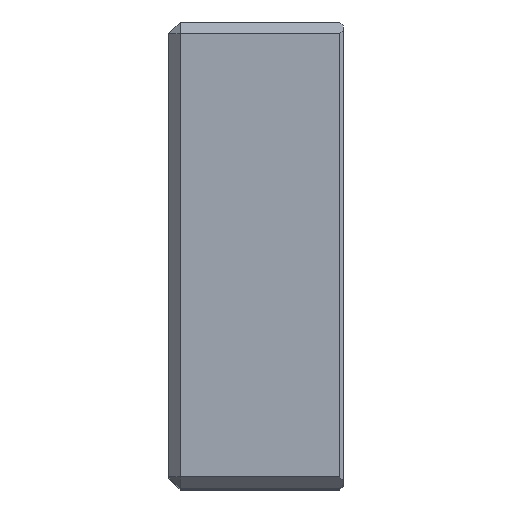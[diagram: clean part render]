
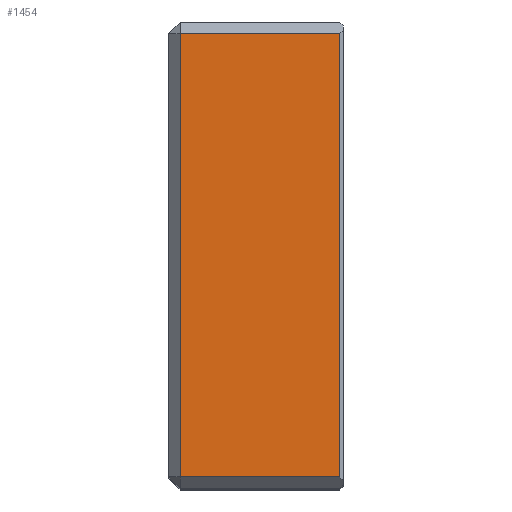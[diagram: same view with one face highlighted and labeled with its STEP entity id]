
A CAD part, top view. The second image highlights one B-rep face of the part: STEP entity #1454.
In plain terms, the highlighted planar face has unit normal (0, 0, 1).
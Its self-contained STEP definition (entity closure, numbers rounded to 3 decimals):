
#145=VERTEX_POINT(' ',#146);
#146=CARTESIAN_POINT('',(3.,57.,0.));
#149=VERTEX_POINT(' ',#150);
#150=CARTESIAN_POINT('',(3.,-57.,0.));
#175=VERTEX_POINT(' ',#176);
#176=CARTESIAN_POINT('',(44.,57.,0.));
#179=VERTEX_POINT(' ',#180);
#180=CARTESIAN_POINT('',(44.,-57.,0.));
#482=LINE('',#483,#484);
#483=CARTESIAN_POINT('',(3.,-76.971,0.));
#484=VECTOR('',#485,1.);
#485=DIRECTION('',(0.,1.,0.));
#486=EDGE_CURVE(' ',#149,#145,#482,.T.);
#602=LINE('',#603,#604);
#603=CARTESIAN_POINT('',(-13.971,57.,0.));
#604=VECTOR('',#605,1.);
#605=DIRECTION('',(1.,0.,0.));
#606=EDGE_CURVE(' ',#145,#175,#602,.T.);
#607=LINE('',#608,#609);
#608=CARTESIAN_POINT('',(44.,62.657,0.));
#609=VECTOR('',#610,1.);
#610=DIRECTION('',(0.,-1.,0.));
#611=EDGE_CURVE(' ',#175,#179,#607,.T.);
#612=LINE('',#613,#614);
#613=CARTESIAN_POINT('',(61.971,-57.,0.));
#614=VECTOR('',#615,1.);
#615=DIRECTION('',(-1.,0.,0.));
#616=EDGE_CURVE(' ',#179,#149,#612,.T.);
#1443=ORIENTED_EDGE('',*,*,#611,.F.);
#1444=ORIENTED_EDGE('',*,*,#606,.F.);
#1445=ORIENTED_EDGE('',*,*,#486,.F.);
#1446=ORIENTED_EDGE('',*,*,#616,.F.);
#1447=EDGE_LOOP('',(#1443,#1444,#1445,#1446));
#1448=FACE_OUTER_BOUND('',#1447,.T.);
#1449=PLANE('',#1450);
#1450=AXIS2_PLACEMENT_3D('',#1451,#1452,#1453);
#1451=CARTESIAN_POINT('',(0.,-60.,0.));
#1452=DIRECTION('',(0.,0.,1.));
#1453=DIRECTION('',(0.,1.,0.));
#1454=ADVANCED_FACE('',(#1448),#1449,.T.);
